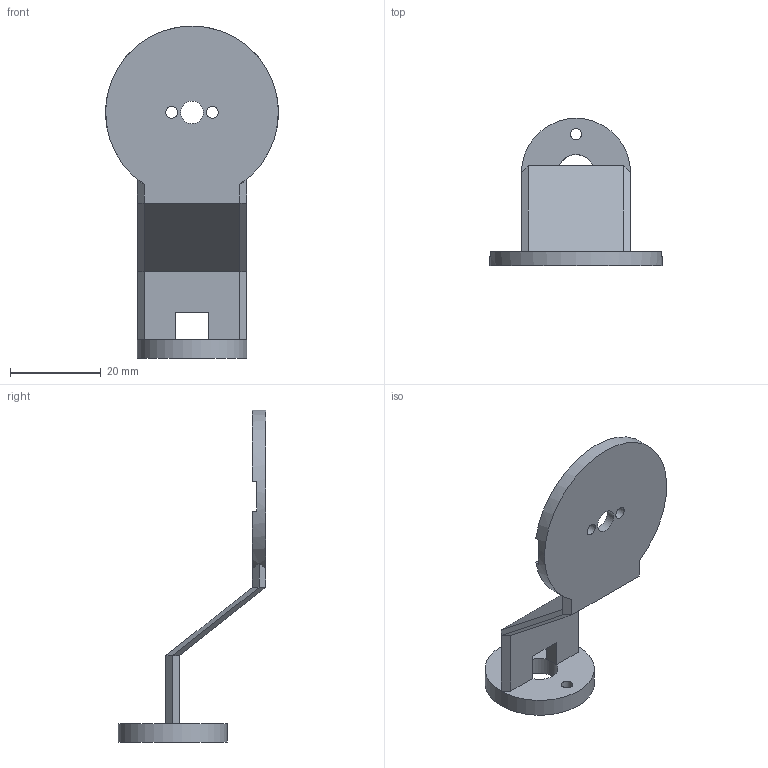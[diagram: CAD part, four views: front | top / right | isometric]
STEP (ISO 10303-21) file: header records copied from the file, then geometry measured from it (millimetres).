
FILE_DESCRIPTION(/* description */ ('STEP AP242 Edition 2','CAx-IF Rec.Pracs.---Representation and Presentation of Product Manufacturing Information (PMI)---4.0---2014-10-13','CAx-IF Rec.Pracs.---3D Tessellated Geometry---0.4---2014-09-14','2;1','CAx-IF Rec.Pracs.---User Defined Attributes---1.5---2016-08-15'),/* implementation_level */ '2;1');
FILE_NAME(/* name */ 'Gripper Adapter - Part 1',/* time_stamp */ '2026-09-28T10:22:04Z',/* author */ (''),/* organization */ (''),/* preprocessor_version */ 'ST-DEVELOPER v20',/* originating_system */ 'ONSHAPE BY PTC INC, 1.221',/* authorisation */ ' ');
FILE_SCHEMA (('AP242_MANAGED_MODEL_BASED_3D_ENGINEERING_MIM_LF { 1 0 10303 442 3 1 4 }'));
Length unit declared in the file: metre
Products named in the file (1): Part 1
Bounding box: 37.97 x 32.5 x 73 mm (x, y, z)
Volume: 6661.5 mm3; surface area: 5865.9 mm2
Topology: 1 solids, 1 shells, 42 faces, 104 edges, 61 vertices
Faces by surface type: plane 32, cylinder 10
Full cylindrical faces by diameter (mm): 2.5 x2, 2.585 x2, 4.975 x1, 8 x1, 24 x1
Entity records: 1226 total; most frequent: DIRECTION 214, CARTESIAN_POINT 199, ORIENTED_EDGE 192, EDGE_CURVE 96, AXIS2_PLACEMENT_3D 75, LINE 64, VECTOR 64, VERTEX_POINT 60
